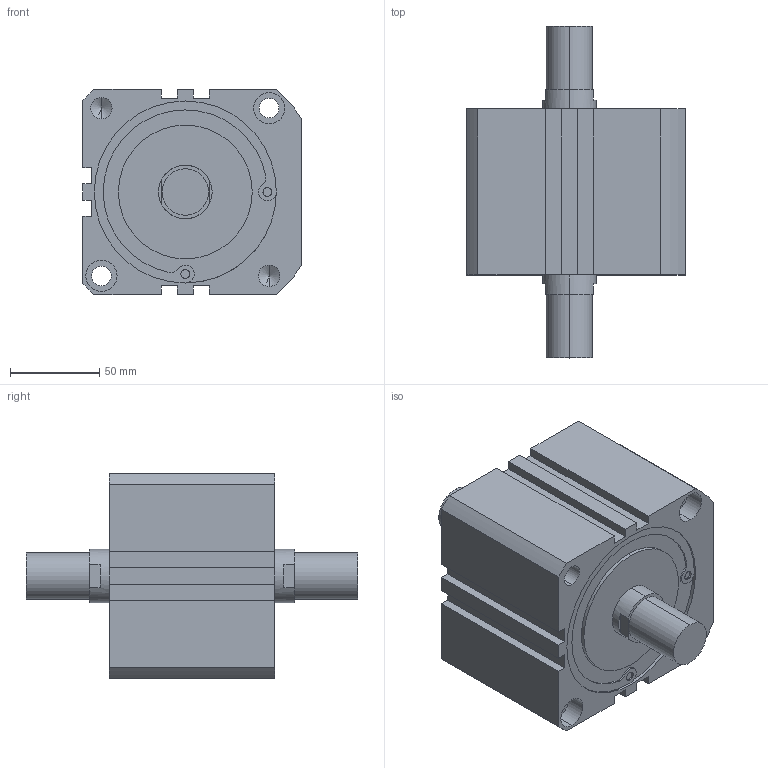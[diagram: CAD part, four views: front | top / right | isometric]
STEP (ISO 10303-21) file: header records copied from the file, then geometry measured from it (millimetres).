
FILE_DESCRIPTION (( 'STEP AP214' ), '1' );
FILE_NAME ('XG#M7-100D-10.STEP', '2016-05-24T02:26:20', ( '' ), ( '' ), 'SwSTEP 2.0', 'SolidWorks 2014', '' );
FILE_SCHEMA (( 'AUTOMOTIVE_DESIGN' ));
Length unit declared in the file: millimetre
Products named in the file (1): XG#M7-100D-10
Bounding box: 122.5 x 186 x 115 mm (x, y, z)
Volume: 1257451 mm3; surface area: 98117.5 mm2
Topology: 1 solids, 1 shells, 140 faces, 346 edges, 220 vertices
Faces by surface type: cylinder 66, plane 58, cone 16
Entity records: 4234 total; most frequent: DIRECTION 766, CARTESIAN_POINT 695, ORIENTED_EDGE 668, EDGE_CURVE 334, AXIS2_PLACEMENT_3D 291, VERTEX_POINT 220, LINE 184, VECTOR 184
